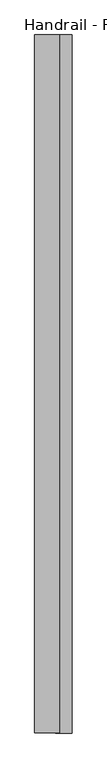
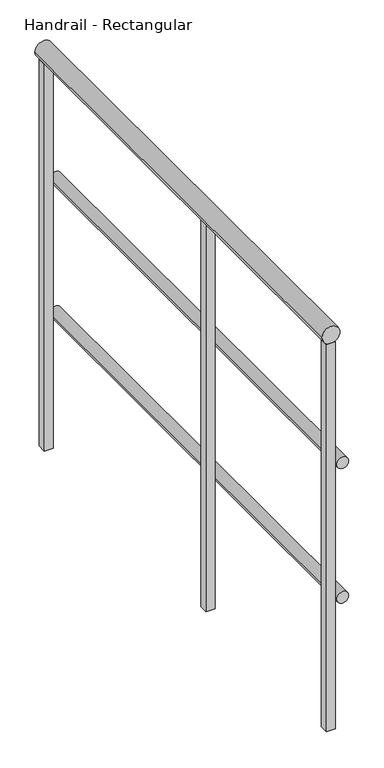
"""IFC4 building model written with IfcOpenShell, lengths in millimetres: railing geometry, Handrail - Rectangular."""

from ifc_helpers import new_model, si_unit, point, frame, frame_2d, origin, place, context, project, spatial, polyline, circle_curve, trimmed, segment, composite_curve, outline, extrude, source, transform, mapped, element, save


def handrail_rectangular_7e8bea4f(model_context):
    return source(origin(), model_context, "Body", "SweptSolid", [
        extrude(outline(composite_curve([segment(trimmed(circle_curve(frame_2d((9740.9, 2322.5410437)), 12.7), [point((9740.9, 2335.2410437))], [point((9740.9, 2309.8410437))], False, "CARTESIAN"), True, "CONTINUOUS"), segment(trimmed(circle_curve(frame_2d((9740.9, 2322.5410437)), 12.7), [point((9740.9, 2309.8410437))], [point((9740.9, 2335.2410437))], False, "CARTESIAN"), True, "CONTINUOUS")], self_intersect=False)), frame((0.0, 6864.8316867, 0.0), z_axis=(0.0, 1.0, 0.0), x_axis=(0.0, 0.0, 1.0)), (0.0, 0.0, 1.0), 1066.8),
        extrude(outline(composite_curve([segment(trimmed(circle_curve(frame_2d((9436.1, 2322.5410437)), 12.7), [point((9436.1, 2335.2410437))], [point((9436.1, 2309.8410437))], False, "CARTESIAN"), True, "CONTINUOUS"), segment(trimmed(circle_curve(frame_2d((9436.1, 2322.5410437)), 12.7), [point((9436.1, 2309.8410437))], [point((9436.1, 2335.2410437))], False, "CARTESIAN"), True, "CONTINUOUS")], self_intersect=False)), frame((0.0, 6864.8316867, 0.0), z_axis=(0.0, 1.0, 0.0), x_axis=(0.0, 0.0, 1.0)), (0.0, 0.0, 1.0), 1066.8),
        extrude(outline(composite_curve([segment(trimmed(circle_curve(frame_2d((10039.35, 2297.1410437)), 19.05), [point((10039.35, 2316.1910437))], [point((10039.35, 2278.0910437))], False, "CARTESIAN"), True, "CONTINUOUS"), segment(trimmed(circle_curve(frame_2d((10039.35, 2297.1410437)), 19.05), [point((10039.35, 2278.0910437))], [point((10039.35, 2316.1910437))], False, "CARTESIAN"), True, "CONTINUOUS")], self_intersect=False)), frame((0.0, 6864.8316867, 0.0), z_axis=(0.0, 1.0, 0.0), x_axis=(0.0, 0.0, 1.0)), (0.0, 0.0, 1.0), 1066.8),
        extrude(outline(polyline([(2287.6160437, 7331.5566867), (2306.6660437, 7331.5566867), (2306.6660437, 7312.5066867), (2287.6160437, 7312.5066867), (2287.6160437, 7331.5566867)])), frame((0.0, 0.0, 9144.0), z_axis=(0.0, 0.0, 1.0), x_axis=(1.0, 0.0, 0.0)), (0.0, 0.0, 1.0), 876.3),
        extrude(outline(polyline([(2287.6160437, 6883.8816867), (2306.6660437, 6883.8816867), (2306.6660437, 6864.8316867), (2287.6160437, 6864.8316867), (2287.6160437, 6883.8816867)])), frame((0.0, 0.0, 9144.0), z_axis=(0.0, 0.0, 1.0), x_axis=(1.0, 0.0, 0.0)), (0.0, 0.0, 1.0), 876.3),
        extrude(outline(polyline([(2287.6160437, 7931.6316867), (2306.6660437, 7931.6316867), (2306.6660437, 7912.5816867), (2287.6160437, 7912.5816867), (2287.6160437, 7931.6316867)])), frame((0.0, 0.0, 9144.0), z_axis=(0.0, 0.0, 1.0), x_axis=(1.0, 0.0, 0.0)), (0.0, 0.0, 1.0), 876.3),
    ])


if __name__ == "__main__":
    model = new_model("IFC4")
    model_context = context("Model", 3, world=origin())
    ifc_project = project(units=[si_unit("LENGTHUNIT", "METRE", prefix="MILLI")], contexts=[model_context])
    site = spatial("IfcSite", under=ifc_project)
    building = spatial("IfcBuilding", under=site)
    placement = place(None, origin())
    handrail_rectangular_shape = handrail_rectangular_7e8bea4f(model_context)
    element("IfcRailing", 1, ObjectType="Handrail - Rectangular", at=placement, inside=building, context=model_context, shape_type="MappedRepresentation", body=[
        mapped(handrail_rectangular_shape, transform((0.0, 0.0, 0.0), x_axis=(1.0, 0.0, 0.0), y_axis=(0.0, 1.0, 0.0), z_axis=(0.0, 0.0, 1.0))),
    ])
    save(model, "model.ifc")
